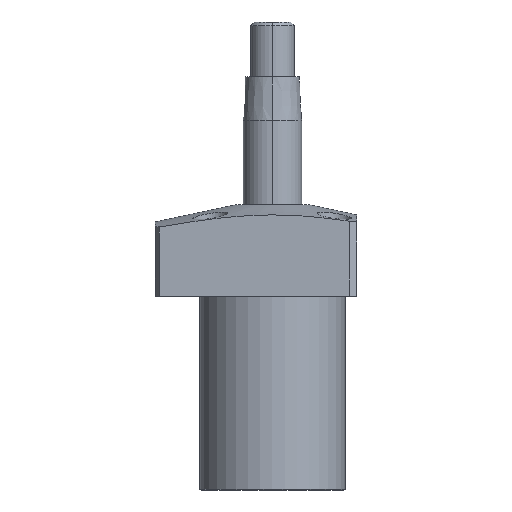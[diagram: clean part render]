
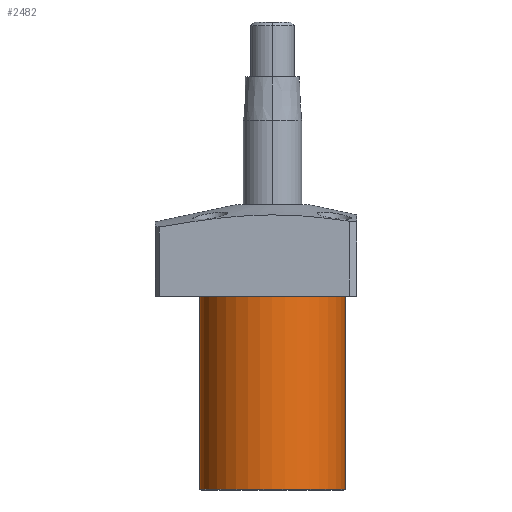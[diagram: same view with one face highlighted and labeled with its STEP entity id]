
A CAD part, front view. The second image highlights one B-rep face of the part: STEP entity #2482.
In plain terms, the highlighted cylindrical face has radius 19.95 mm (diameter 39.9 mm), a partial arc.
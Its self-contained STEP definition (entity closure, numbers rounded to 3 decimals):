
#88 = ORIENTED_EDGE ( 'NONE', *, *, #1504, .F. ) ;
#129 = EDGE_CURVE ( 'NONE', #839, #2408, #520, .T. ) ;
#173 = AXIS2_PLACEMENT_3D ( 'NONE', #1656, #2228, #341 ) ;
#341 = DIRECTION ( 'NONE',  ( 1., 0., 0. ) ) ;
#479 = CARTESIAN_POINT ( 'NONE',  ( -19.95, 0., 53. ) ) ;
#500 = CARTESIAN_POINT ( 'NONE',  ( 19.95, 0., 53. ) ) ;
#516 = CYLINDRICAL_SURFACE ( 'NONE', #1653, 19.95 ) ;
#520 = CIRCLE ( 'NONE', #2244, 19.95 ) ;
#540 = EDGE_LOOP ( 'NONE', ( #88, #2407, #1169, #2199 ) ) ;
#668 = LINE ( 'NONE', #479, #1903 ) ;
#839 = VERTEX_POINT ( 'NONE', #2334 ) ;
#998 = DIRECTION ( 'NONE',  ( 0., 0., -1. ) ) ;
#1079 = LINE ( 'NONE', #500, #1343 ) ;
#1107 = DIRECTION ( 'NONE',  ( 0., 0., -1. ) ) ;
#1169 = ORIENTED_EDGE ( 'NONE', *, *, #2434, .T. ) ;
#1200 = VERTEX_POINT ( 'NONE', #1627 ) ;
#1225 = CARTESIAN_POINT ( 'NONE',  ( 19.95, 0., 53. ) ) ;
#1273 = DIRECTION ( 'NONE',  ( 0., 0., -1. ) ) ;
#1343 = VECTOR ( 'NONE', #1107, 1000. ) ;
#1472 = DIRECTION ( 'NONE',  ( -1., 0., 0. ) ) ;
#1504 = EDGE_CURVE ( 'NONE', #2408, #1200, #1079, .T. ) ;
#1627 = CARTESIAN_POINT ( 'NONE',  ( 19.95, 0., 0.182 ) ) ;
#1653 = AXIS2_PLACEMENT_3D ( 'NONE', #1837, #1273, #1472 ) ;
#1656 = CARTESIAN_POINT ( 'NONE',  ( 0., 0., 0.182 ) ) ;
#1760 = DIRECTION ( 'NONE',  ( 0., 0., 1. ) ) ;
#1837 = CARTESIAN_POINT ( 'NONE',  ( 0., 0., 53. ) ) ;
#1903 = VECTOR ( 'NONE', #998, 1000. ) ;
#1933 = CARTESIAN_POINT ( 'NONE',  ( 0., 0., 53. ) ) ;
#1944 = CIRCLE ( 'NONE', #173, 19.95 ) ;
#2090 = VERTEX_POINT ( 'NONE', #2345 ) ;
#2100 = DIRECTION ( 'NONE',  ( 1., 0., 0. ) ) ;
#2199 = ORIENTED_EDGE ( 'NONE', *, *, #2355, .T. ) ;
#2228 = DIRECTION ( 'NONE',  ( 0., 0., 1. ) ) ;
#2237 = FACE_OUTER_BOUND ( 'NONE', #540, .T. ) ;
#2244 = AXIS2_PLACEMENT_3D ( 'NONE', #1933, #1760, #2100 ) ;
#2334 = CARTESIAN_POINT ( 'NONE',  ( -19.95, 0., 53. ) ) ;
#2345 = CARTESIAN_POINT ( 'NONE',  ( -19.95, 0., 0.182 ) ) ;
#2355 = EDGE_CURVE ( 'NONE', #2090, #1200, #1944, .T. ) ;
#2407 = ORIENTED_EDGE ( 'NONE', *, *, #129, .F. ) ;
#2408 = VERTEX_POINT ( 'NONE', #1225 ) ;
#2434 = EDGE_CURVE ( 'NONE', #839, #2090, #668, .T. ) ;
#2482 = ADVANCED_FACE ( 'NONE', ( #2237 ), #516, .T. ) ;
